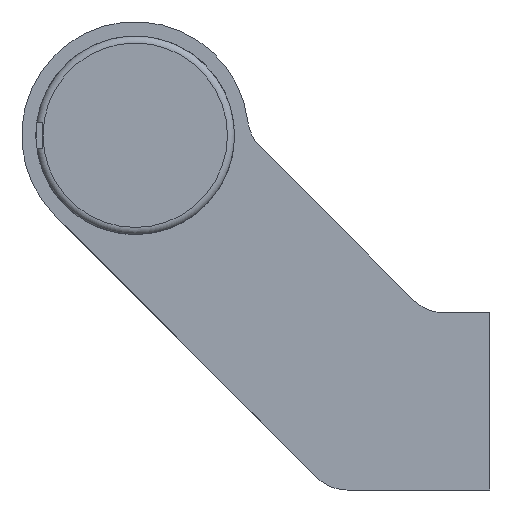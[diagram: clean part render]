
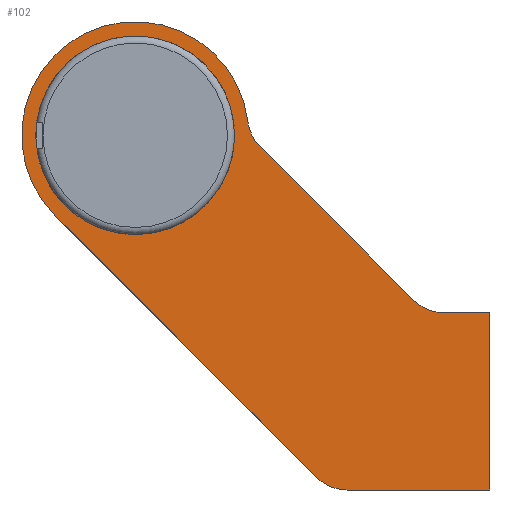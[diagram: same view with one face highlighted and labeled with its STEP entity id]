
A CAD part, left-side view. The second image highlights one B-rep face of the part: STEP entity #102.
In plain terms, the highlighted planar face has unit normal (-1, 0, 0).
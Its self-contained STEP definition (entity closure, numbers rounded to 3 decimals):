
#102 = ADVANCED_FACE( '', ( #191, #192 ), #193, .F. );
#191 = FACE_BOUND( '', #320, .T. );
#192 = FACE_OUTER_BOUND( '', #321, .T. );
#193 = PLANE( '', #322 );
#320 = EDGE_LOOP( '', ( #581 ) );
#321 = EDGE_LOOP( '', ( #582, #583, #584, #585, #586, #587, #588, #589, #590 ) );
#322 = AXIS2_PLACEMENT_3D( '', #591, #592, #593 );
#581 = ORIENTED_EDGE( '', *, *, #776, .T. );
#582 = ORIENTED_EDGE( '', *, *, #794, .F. );
#583 = ORIENTED_EDGE( '', *, *, #820, .F. );
#584 = ORIENTED_EDGE( '', *, *, #817, .F. );
#585 = ORIENTED_EDGE( '', *, *, #814, .F. );
#586 = ORIENTED_EDGE( '', *, *, #810, .F. );
#587 = ORIENTED_EDGE( '', *, *, #807, .T. );
#588 = ORIENTED_EDGE( '', *, *, #804, .F. );
#589 = ORIENTED_EDGE( '', *, *, #801, .T. );
#590 = ORIENTED_EDGE( '', *, *, #798, .F. );
#591 = CARTESIAN_POINT( '', ( -107., 50., 37.5 ) );
#592 = DIRECTION( '', ( 1., 0., 0. ) );
#593 = DIRECTION( '', ( 0., 0., -1. ) );
#776 = EDGE_CURVE( '', #900, #900, #901, .T. );
#794 = EDGE_CURVE( '', #931, #932, #933, .T. );
#798 = EDGE_CURVE( '', #932, #939, #940, .T. );
#801 = EDGE_CURVE( '', #944, #939, #945, .T. );
#804 = EDGE_CURVE( '', #944, #949, #950, .T. );
#807 = EDGE_CURVE( '', #954, #949, #955, .T. );
#810 = EDGE_CURVE( '', #954, #959, #960, .T. );
#814 = EDGE_CURVE( '', #959, #966, #967, .T. );
#817 = EDGE_CURVE( '', #966, #971, #972, .T. );
#820 = EDGE_CURVE( '', #971, #931, #976, .T. );
#900 = VERTEX_POINT( '', #1129 );
#901 = CIRCLE( '', #1130, 14. );
#931 = VERTEX_POINT( '', #1172 );
#932 = VERTEX_POINT( '', #1173 );
#933 = LINE( '', #1174, #1175 );
#939 = VERTEX_POINT( '', #1184 );
#940 = CIRCLE( '', #1185, 16. );
#944 = VERTEX_POINT( '', #1190 );
#945 = CIRCLE( '', #1191, 6. );
#949 = VERTEX_POINT( '', #1196 );
#950 = LINE( '', #1197, #1198 );
#954 = VERTEX_POINT( '', #1204 );
#955 = CIRCLE( '', #1205, 6. );
#959 = VERTEX_POINT( '', #1210 );
#960 = LINE( '', #1211, #1212 );
#966 = VERTEX_POINT( '', #1220 );
#967 = LINE( '', #1221, #1222 );
#971 = VERTEX_POINT( '', #1228 );
#972 = LINE( '', #1229, #1230 );
#976 = CIRCLE( '', #1236, 6. );
#1129 = CARTESIAN_POINT( '', ( -107., 50., 23.5 ) );
#1130 = AXIS2_PLACEMENT_3D( '', #1319, #1320, #1321 );
#1172 = CARTESIAN_POINT( '', ( -107., 24.385, -10.743 ) );
#1173 = CARTESIAN_POINT( '', ( -107., 61.314, 26.186 ) );
#1174 = CARTESIAN_POINT( '', ( -107., 24.385, -10.743 ) );
#1175 = VECTOR( '', #1360, 1000. );
#1184 = CARTESIAN_POINT( '', ( -107., 34.116, 39.424 ) );
#1185 = AXIS2_PLACEMENT_3D( '', #1364, #1365, #1366 );
#1190 = CARTESIAN_POINT( '', ( -107., 32.402, 35.902 ) );
#1191 = AXIS2_PLACEMENT_3D( '', #1371, #1372, #1373 );
#1196 = CARTESIAN_POINT( '', ( -107., 10.757, 14.257 ) );
#1197 = CARTESIAN_POINT( '', ( -107., 32.402, 35.902 ) );
#1198 = VECTOR( '', #1378, 1000. );
#1204 = CARTESIAN_POINT( '', ( -107., 6.515, 12.5 ) );
#1205 = AXIS2_PLACEMENT_3D( '', #1381, #1382, #1383 );
#1210 = CARTESIAN_POINT( '', ( -107., 0., 12.5 ) );
#1211 = CARTESIAN_POINT( '', ( -107., 6.515, 12.5 ) );
#1212 = VECTOR( '', #1388, 1000. );
#1220 = CARTESIAN_POINT( '', ( -107., 0., -12.5 ) );
#1221 = CARTESIAN_POINT( '', ( -107., 0., 12.5 ) );
#1222 = VECTOR( '', #1394, 1000. );
#1228 = CARTESIAN_POINT( '', ( -107., 20.142, -12.5 ) );
#1229 = CARTESIAN_POINT( '', ( -107., 0., -12.5 ) );
#1230 = VECTOR( '', #1397, 1000. );
#1236 = AXIS2_PLACEMENT_3D( '', #1400, #1401, #1402 );
#1319 = CARTESIAN_POINT( '', ( -107., 50., 37.5 ) );
#1320 = DIRECTION( '', ( 1., 0., 0. ) );
#1321 = DIRECTION( '', ( 0., 0., -1. ) );
#1360 = DIRECTION( '', ( 0., 0.707, 0.707 ) );
#1364 = CARTESIAN_POINT( '', ( -107., 50., 37.5 ) );
#1365 = DIRECTION( '', ( 1., 0., 0. ) );
#1366 = DIRECTION( '', ( 0., 0., -1. ) );
#1371 = CARTESIAN_POINT( '', ( -107., 28.16, 40.145 ) );
#1372 = DIRECTION( '', ( 1., 0., 0. ) );
#1373 = DIRECTION( '', ( 0., 0., -1. ) );
#1378 = DIRECTION( '', ( 0., -0.707, -0.707 ) );
#1381 = CARTESIAN_POINT( '', ( -107., 6.515, 18.5 ) );
#1382 = DIRECTION( '', ( 1., 0., 0. ) );
#1383 = DIRECTION( '', ( 0., 0., -1. ) );
#1388 = DIRECTION( '', ( 0., -1., 0. ) );
#1394 = DIRECTION( '', ( 0., 0., -1. ) );
#1397 = DIRECTION( '', ( 0., 1., 0. ) );
#1400 = CARTESIAN_POINT( '', ( -107., 20.142, -6.5 ) );
#1401 = DIRECTION( '', ( 1., 0., 0. ) );
#1402 = DIRECTION( '', ( 0., 0., -1. ) );
